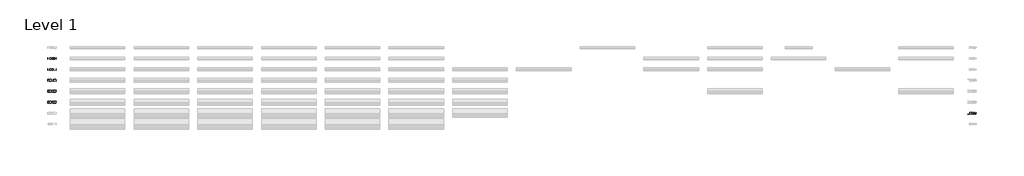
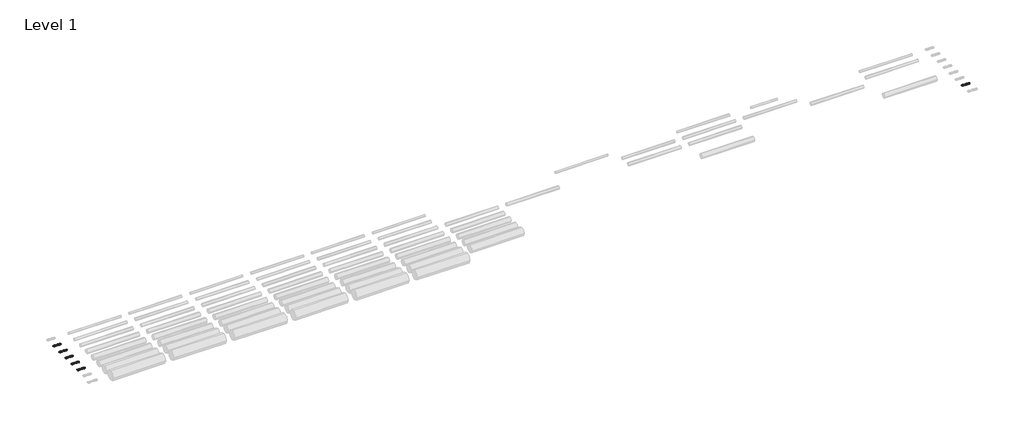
# One storey, part 3 of 10: 6 proxies.
"""IFC4 building model written with IfcOpenShell, lengths in millimetres."""

from ifc_helpers import new_model, si_unit, origin, origin_with_axes, place, context, project, spatial, polyline, outline, extrude, element, save

model = new_model("IFC4")

# Units and contexts
model_context = context("Model", 3, world=origin())
ifc_project = project(units=[si_unit("LENGTHUNIT", "METRE", prefix="MILLI")], contexts=[model_context])

# Site, building, storey
site = spatial("IfcSite", under=ifc_project)
building = spatial("IfcBuilding", under=site)
storey = spatial("IfcBuildingStorey", under=building, Name="Level 1", Elevation=0.0)

# Proxies
placement = place(None, origin())
element("IfcBuildingElementProxy", 1, Name="200mm Arial", ObjectType="200mm Arial", at=placement, inside=storey, context=model_context, shape_type="SweptSolid", body=[
    extrude(outline(polyline([(-19491.3116028, -713.949573), (-19491.3116028, -513.0369527), (-19422.0026349, -513.0369527), (-19386.1464031, -515.9309577), (-19370.1312736, -521.5105013), (-19356.6177416, -530.302881), (-19342.724065, -545.606772), (-19332.8280393, -564.6385338), (-19326.9051392, -587.0302846), (-19324.9308391, -612.4141423), (-19330.2773908, -652.9547382), (-19344.0116519, -682.2136195), (-19362.3567008, -700.436041), (-19386.3671323, -710.5160077), (-19418.6671715, -713.949573), (-19491.3116028, -713.949573)]), holes=[polyline([(-19466.1975253, -688.8354954), (-19421.7573803, -688.8354954), (-19389.4328156, -685.2057264), (-19370.7934612, -674.9540815), (-19362.0685265, -664.0831685), (-19355.5140957, -650.0116822), (-19351.4122114, -632.6783089), (-19350.0449167, -612.0217348), (-19352.7243239, -584.6513144), (-19360.7625455, -564.4423301), (-19372.6390025, -550.5609162), (-19386.8331162, -542.1732067), (-19422.4440933, -538.1510302), (-19466.1975253, -538.1510302), (-19466.1975253, -688.8354954)])]), origin_with_axes(), (0.0, 0.0, 1.0), 50.0),
    extrude(outline(polyline([(-19290.3989825, -713.949573), (-19290.3989825, -513.0369527), (-19263.5190714, -513.0369527), (-19158.5500754, -672.2072292), (-19158.5500754, -513.0369527), (-19133.4359979, -513.0369527), (-19133.4359979, -713.949573), (-19160.315909, -713.949573), (-19265.284905, -554.7302454), (-19265.284905, -713.949573), (-19290.3989825, -713.949573)])), origin_with_axes(), (0.0, 0.0, 1.0), 50.0),
    extrude(outline(polyline([(-18891.7130016, -688.8354954), (-18891.7130016, -713.949573), (-19023.5619087, -713.949573), (-19020.8641074, -696.6345937), (-19005.6092673, -669.9754118), (-18974.1676195, -640.8636832), (-18930.806595, -599.0232377), (-18922.6764029, -584.6022634), (-18919.9663388, -570.5736967), (-18922.5231187, -557.9982638), (-18930.1934583, -547.5442838), (-18941.9840762, -540.4993436), (-18956.9016912, -538.1510302), (-18972.5673328, -540.4441613), (-18984.7380955, -547.3235546), (-18992.5923761, -558.2496499), (-18995.3085714, -572.6828868), (-19020.422649, -569.5436271), (-19014.334202, -545.2511527), (-19001.1701579, -527.5069778), (-18981.6172299, -516.6544589), (-18956.3621309, -513.0369527), (-18930.9230909, -517.0591291), (-18911.4069511, -529.1256586), (-18898.9909337, -547.1518763), (-18894.8522613, -569.0531178), (-18899.3158962, -592.8673456), (-18914.1538033, -617.4909138), (-18950.1326624, -651.9001431), (-18979.0236618, -676.0577275), (-18990.3544272, -688.8354954), (-18891.7130016, -688.8354954)])), origin_with_axes(), (0.0, 0.0, 1.0), 50.0),
    extrude(outline(polyline([(-18866.5989241, -660.5821582), (-18841.4848465, -657.4428985), (-18836.8740589, -672.5199289), (-18828.8297059, -683.3172655), (-18817.3885758, -689.8103827), (-18802.5874569, -691.9747551), (-18784.5857646, -688.9642541), (-18771.0967581, -679.9327511), (-18762.6722604, -665.9225785), (-18759.8640945, -647.9760685), (-18762.4944508, -631.0780222), (-18770.3855196, -618.1531014), (-18783.5986146, -609.9493329), (-18802.1950494, -607.2147434), (-18824.2434437, -611.5802764), (-18838.3455868, -622.9110419), (-18863.4596644, -619.7717822), (-18841.4848465, -516.1762123), (-18744.1677961, -516.1762123), (-18744.1677961, -541.2902899), (-18821.1777604, -541.2902899), (-18831.9199147, -596.619742), (-18813.979536, -585.7304349), (-18795.1807661, -582.1006659), (-18771.7160261, -586.601089), (-18752.2366745, -600.1023582), (-18739.1216814, -620.6792244), (-18734.750017, -646.4064386), (-18738.6863543, -671.5205162), (-18750.4953664, -693.0048247), (-18760.9309523, -703.5415782), (-18773.1078464, -711.0678307), (-18787.0260485, -715.5835821), (-18802.6855588, -717.0888326), (-18827.3520466, -713.2199403), (-18847.0030765, -701.6132634), (-18860.4736888, -683.6177025), (-18866.5989241, -660.5821582)])), origin_with_axes(), (0.0, 0.0, 1.0), 50.0),
    extrude(outline(polyline([(-18712.7751992, -615.1119436), (-18710.9296578, -582.9529258), (-18705.3930338, -557.3054194), (-18696.2205094, -537.7770168), (-18683.4672669, -523.9753106), (-18667.0413358, -515.7715422), (-18646.8507456, -513.0369527), (-18631.3751764, -514.6556334), (-18617.5182879, -519.5116758), (-18605.930005, -527.4150073), (-18597.2602527, -538.1755557), (-18585.4880288, -567.9004209), (-18580.9262921, -615.1119436), (-18582.7534393, -647.0870203), (-18588.2348811, -672.6732131), (-18597.3522232, -692.2200098), (-18610.0870716, -706.0768983), (-18626.5497909, -714.335849), (-18646.8507456, -717.0888326), (-18672.9458418, -712.3063667), (-18692.7624186, -697.9589689), (-18701.5180101, -682.8298218), (-18707.772004, -663.9789353), (-18712.7751992, -615.1119436)]), holes=[polyline([(-18687.6611216, -615.0628927), (-18684.7180657, -654.5672876), (-18675.8888978, -677.4311536), (-18662.7432478, -688.3388547), (-18646.8507456, -691.9747551), (-18630.9582434, -688.326592), (-18617.8125935, -677.3821026), (-18608.9834256, -654.5059739), (-18606.0403696, -615.0628927), (-18608.8853237, -576.4475459), (-18617.420186, -553.4058703), (-18630.5413105, -541.9647402), (-18647.1450512, -538.1510302), (-18662.8658751, -541.5110191), (-18675.4964903, -551.5909857), (-18684.6199638, -576.0674012), (-18687.6611216, -615.0628927)])]), origin_with_axes(), (0.0, 0.0, 1.0), 50.0),
])
element("IfcBuildingElementProxy", 2, Name="200mm Arial", ObjectType="200mm Arial", at=placement, inside=storey, context=model_context, shape_type="SweptSolid", body=[
    extrude(outline(polyline([(-19491.3116028, -1913.949573), (-19491.3116028, -1713.0369527), (-19422.0026349, -1713.0369527), (-19386.1464031, -1715.9309577), (-19370.1312736, -1721.5105013), (-19356.6177416, -1730.302881), (-19342.724065, -1745.606772), (-19332.8280393, -1764.6385338), (-19326.9051392, -1787.0302846), (-19324.9308391, -1812.4141423), (-19330.2773908, -1852.9547382), (-19344.0116519, -1882.2136195), (-19362.3567008, -1900.436041), (-19386.3671323, -1910.5160077), (-19418.6671715, -1913.949573), (-19491.3116028, -1913.949573)]), holes=[polyline([(-19466.1975253, -1888.8354954), (-19421.7573803, -1888.8354954), (-19389.4328156, -1885.2057264), (-19370.7934612, -1874.9540815), (-19362.0685265, -1864.0831685), (-19355.5140957, -1850.0116822), (-19351.4122114, -1832.6783089), (-19350.0449167, -1812.0217348), (-19352.7243239, -1784.6513144), (-19360.7625455, -1764.4423301), (-19372.6390025, -1750.5609162), (-19386.8331162, -1742.1732067), (-19422.4440933, -1738.1510302), (-19466.1975253, -1738.1510302), (-19466.1975253, -1888.8354954)])]), origin_with_axes(), (0.0, 0.0, 1.0), 50.0),
    extrude(outline(polyline([(-19290.3989825, -1913.949573), (-19290.3989825, -1713.0369527), (-19263.5190714, -1713.0369527), (-19158.5500754, -1872.2072292), (-19158.5500754, -1713.0369527), (-19133.4359979, -1713.0369527), (-19133.4359979, -1913.949573), (-19160.315909, -1913.949573), (-19265.284905, -1754.7302454), (-19265.284905, -1913.949573), (-19290.3989825, -1913.949573)])), origin_with_axes(), (0.0, 0.0, 1.0), 50.0),
    extrude(outline(polyline([(-19020.422649, -1860.5821582), (-18995.3085714, -1857.4428985), (-18989.6861083, -1873.2250361), (-18981.451683, -1883.8813512), (-18970.2006253, -1889.9514041), (-18955.528265, -1891.9747551), (-18938.3113877, -1889.1911147), (-18925.0185849, -1880.8401934), (-18916.5205108, -1868.3812565), (-18913.6878195, -1853.2735692), (-18916.4959853, -1838.9323028), (-18924.920483, -1827.3011004), (-18937.6737255, -1819.5939726), (-18953.4681259, -1817.02493), (-18971.0774107, -1819.7717822), (-18968.2815075, -1794.6577047), (-18964.2593311, -1794.9520102), (-18949.2129575, -1793.1493885), (-18935.7607392, -1787.7415231), (-18926.2693837, -1778.5935242), (-18923.1055985, -1765.5705016), (-18925.3987296, -1754.7241141), (-18932.2781229, -1745.925603), (-18942.7750225, -1740.0946734), (-18955.9206725, -1738.1510302), (-18969.0908479, -1740.1130675), (-18979.8575277, -1745.9991794), (-18987.7179396, -1755.809366), (-18992.1693118, -1769.5436271), (-19017.2833893, -1766.4043674), (-19009.8889612, -1743.8532011), (-18996.7310485, -1727.0164685), (-18978.7293562, -1716.5318316), (-18956.8035893, -1713.0369527), (-18941.0153203, -1714.7598667), (-18926.5146384, -1719.9286087), (-18914.2886934, -1728.0833263), (-18905.3246354, -1738.7641669), (-18899.8247996, -1751.0698196), (-18897.991521, -1764.0989736), (-18899.7328291, -1776.2390794), (-18904.9567534, -1787.2510138), (-18913.5897176, -1796.6320047), (-18925.5581452, -1803.87928), (-18909.8373212, -1810.2313758), (-18898.1877247, -1821.0471064), (-18890.9772376, -1835.7378608), (-18888.5737419, -1853.7150276), (-18893.3807333, -1878.191443), (-18907.8017075, -1898.645682), (-18929.5680589, -1912.478045), (-18956.4111818, -1917.0888326), (-18980.6913935, -1913.1524953), (-19000.4589194, -1901.3434833), (-19014.2054433, -1883.2804773), (-19020.422649, -1860.5821582)])), origin_with_axes(), (0.0, 0.0, 1.0), 50.0),
    extrude(outline(polyline([(-18866.5989241, -1815.1119436), (-18864.7533827, -1782.9529258), (-18859.2167587, -1757.3054194), (-18850.0442343, -1737.7770168), (-18837.2909918, -1723.9753106), (-18820.8650607, -1715.7715422), (-18800.6744705, -1713.0369527), (-18785.1989013, -1714.6556334), (-18771.3420128, -1719.5116758), (-18759.7537299, -1727.4150073), (-18751.0839776, -1738.1755557), (-18739.3117537, -1767.9004209), (-18734.750017, -1815.1119436), (-18736.5771642, -1847.0870203), (-18742.058606, -1872.6732131), (-18751.1759481, -1892.2200098), (-18763.9107965, -1906.0768983), (-18780.3735158, -1914.335849), (-18800.6744705, -1917.0888326), (-18826.7695667, -1912.3063667), (-18846.5861435, -1897.9589689), (-18855.341735, -1882.8298218), (-18861.5957289, -1863.9789353), (-18866.5989241, -1815.1119436)]), holes=[polyline([(-18841.4848465, -1815.0628927), (-18838.5417906, -1854.5672876), (-18829.7126227, -1877.4311536), (-18816.5669727, -1888.3388547), (-18800.6744705, -1891.9747551), (-18784.7819683, -1888.326592), (-18771.6363184, -1877.3821026), (-18762.8071505, -1854.5059739), (-18759.8640945, -1815.0628927), (-18762.7090486, -1776.4475459), (-18771.2439109, -1753.4058703), (-18784.3650354, -1741.9647402), (-18800.9687761, -1738.1510302), (-18816.6896001, -1741.5110191), (-18829.3202152, -1751.5909857), (-18838.4436887, -1776.0674012), (-18841.4848465, -1815.0628927)])]), origin_with_axes(), (0.0, 0.0, 1.0), 50.0),
    extrude(outline(polyline([(-18712.7751992, -1815.1119436), (-18710.9296578, -1782.9529258), (-18705.3930338, -1757.3054194), (-18696.2205094, -1737.7770168), (-18683.4672669, -1723.9753106), (-18667.0413358, -1715.7715422), (-18646.8507456, -1713.0369527), (-18631.3751764, -1714.6556334), (-18617.5182879, -1719.5116758), (-18605.930005, -1727.4150073), (-18597.2602527, -1738.1755557), (-18585.4880288, -1767.9004209), (-18580.9262921, -1815.1119436), (-18582.7534393, -1847.0870203), (-18588.2348811, -1872.6732131), (-18597.3522232, -1892.2200098), (-18610.0870716, -1906.0768983), (-18626.5497909, -1914.335849), (-18646.8507456, -1917.0888326), (-18672.9458418, -1912.3063667), (-18692.7624186, -1897.9589689), (-18701.5180101, -1882.8298218), (-18707.772004, -1863.9789353), (-18712.7751992, -1815.1119436)]), holes=[polyline([(-18687.6611216, -1815.0628927), (-18684.7180657, -1854.5672876), (-18675.8888978, -1877.4311536), (-18662.7432478, -1888.3388547), (-18646.8507456, -1891.9747551), (-18630.9582434, -1888.326592), (-18617.8125935, -1877.3821026), (-18608.9834256, -1854.5059739), (-18606.0403696, -1815.0628927), (-18608.8853237, -1776.4475459), (-18617.420186, -1753.4058703), (-18630.5413105, -1741.9647402), (-18647.1450512, -1738.1510302), (-18662.8658751, -1741.5110191), (-18675.4964903, -1751.5909857), (-18684.6199638, -1776.0674012), (-18687.6611216, -1815.0628927)])]), origin_with_axes(), (0.0, 0.0, 1.0), 50.0),
])
element("IfcBuildingElementProxy", 3, Name="200mm Arial", ObjectType="200mm Arial", at=placement, inside=storey, context=model_context, shape_type="SweptSolid", body=[
    extrude(outline(polyline([(-19491.3116028, -3113.949573), (-19491.3116028, -2913.0369527), (-19422.0026349, -2913.0369527), (-19386.1464031, -2915.9309577), (-19370.1312736, -2921.5105013), (-19356.6177416, -2930.302881), (-19342.724065, -2945.606772), (-19332.8280393, -2964.6385338), (-19326.9051392, -2987.0302846), (-19324.9308391, -3012.4141423), (-19330.2773908, -3052.9547382), (-19344.0116519, -3082.2136195), (-19362.3567008, -3100.436041), (-19386.3671323, -3110.5160077), (-19418.6671715, -3113.949573), (-19491.3116028, -3113.949573)]), holes=[polyline([(-19466.1975253, -3088.8354954), (-19421.7573803, -3088.8354954), (-19389.4328156, -3085.2057264), (-19370.7934612, -3074.9540815), (-19362.0685265, -3064.0831685), (-19355.5140957, -3050.0116822), (-19351.4122114, -3032.6783089), (-19350.0449167, -3012.0217348), (-19352.7243239, -2984.6513144), (-19360.7625455, -2964.4423301), (-19372.6390025, -2950.5609162), (-19386.8331162, -2942.1732067), (-19422.4440933, -2938.1510302), (-19466.1975253, -2938.1510302), (-19466.1975253, -3088.8354954)])]), origin_with_axes(), (0.0, 0.0, 1.0), 50.0),
    extrude(outline(polyline([(-19290.3989825, -3113.949573), (-19290.3989825, -2913.0369527), (-19263.5190714, -2913.0369527), (-19158.5500754, -3072.2072292), (-19158.5500754, -2913.0369527), (-19133.4359979, -2913.0369527), (-19133.4359979, -3113.949573), (-19160.315909, -3113.949573), (-19265.284905, -2954.7302454), (-19265.284905, -3113.949573), (-19290.3989825, -3113.949573)])), origin_with_axes(), (0.0, 0.0, 1.0), 50.0),
    extrude(outline(polyline([(-18938.801897, -3113.949573), (-18938.801897, -3066.8606776), (-19029.8404281, -3066.8606776), (-19029.8404281, -3041.7466), (-18932.5233776, -2916.1762123), (-18913.6878195, -2916.1762123), (-18913.6878195, -3041.7466), (-18888.5737419, -3041.7466), (-18888.5737419, -3066.8606776), (-18913.6878195, -3066.8606776), (-18913.6878195, -3113.949573), (-18938.801897, -3113.949573)]), holes=[polyline([(-18938.801897, -3041.7466), (-18938.801897, -2964.1480245), (-18998.9383405, -3041.7466), (-18938.801897, -3041.7466)])]), origin_with_axes(), (0.0, 0.0, 1.0), 50.0),
    extrude(outline(polyline([(-18866.5989241, -3015.1119436), (-18864.7533827, -2982.9529258), (-18859.2167587, -2957.3054194), (-18850.0442343, -2937.7770168), (-18837.2909918, -2923.9753106), (-18820.8650607, -2915.7715422), (-18800.6744705, -2913.0369527), (-18785.1989013, -2914.6556334), (-18771.3420128, -2919.5116758), (-18759.7537299, -2927.4150073), (-18751.0839776, -2938.1755557), (-18739.3117537, -2967.9004209), (-18734.750017, -3015.1119436), (-18736.5771642, -3047.0870203), (-18742.058606, -3072.6732131), (-18751.1759481, -3092.2200098), (-18763.9107965, -3106.0768983), (-18780.3735158, -3114.335849), (-18800.6744705, -3117.0888326), (-18826.7695667, -3112.3063667), (-18846.5861435, -3097.9589689), (-18855.341735, -3082.8298218), (-18861.5957289, -3063.9789353), (-18866.5989241, -3015.1119436)]), holes=[polyline([(-18841.4848465, -3015.0628927), (-18838.5417906, -3054.5672876), (-18829.7126227, -3077.4311536), (-18816.5669727, -3088.3388547), (-18800.6744705, -3091.9747551), (-18784.7819683, -3088.326592), (-18771.6363184, -3077.3821026), (-18762.8071505, -3054.5059739), (-18759.8640945, -3015.0628927), (-18762.7090486, -2976.4475459), (-18771.2439109, -2953.4058703), (-18784.3650354, -2941.9647402), (-18800.9687761, -2938.1510302), (-18816.6896001, -2941.5110191), (-18829.3202152, -2951.5909857), (-18838.4436887, -2976.0674012), (-18841.4848465, -3015.0628927)])]), origin_with_axes(), (0.0, 0.0, 1.0), 50.0),
    extrude(outline(polyline([(-18712.7751992, -3015.1119436), (-18710.9296578, -2982.9529258), (-18705.3930338, -2957.3054194), (-18696.2205094, -2937.7770168), (-18683.4672669, -2923.9753106), (-18667.0413358, -2915.7715422), (-18646.8507456, -2913.0369527), (-18631.3751764, -2914.6556334), (-18617.5182879, -2919.5116758), (-18605.930005, -2927.4150073), (-18597.2602527, -2938.1755557), (-18585.4880288, -2967.9004209), (-18580.9262921, -3015.1119436), (-18582.7534393, -3047.0870203), (-18588.2348811, -3072.6732131), (-18597.3522232, -3092.2200098), (-18610.0870716, -3106.0768983), (-18626.5497909, -3114.335849), (-18646.8507456, -3117.0888326), (-18672.9458418, -3112.3063667), (-18692.7624186, -3097.9589689), (-18701.5180101, -3082.8298218), (-18707.772004, -3063.9789353), (-18712.7751992, -3015.1119436)]), holes=[polyline([(-18687.6611216, -3015.0628927), (-18684.7180657, -3054.5672876), (-18675.8888978, -3077.4311536), (-18662.7432478, -3088.3388547), (-18646.8507456, -3091.9747551), (-18630.9582434, -3088.326592), (-18617.8125935, -3077.3821026), (-18608.9834256, -3054.5059739), (-18606.0403696, -3015.0628927), (-18608.8853237, -2976.4475459), (-18617.420186, -2953.4058703), (-18630.5413105, -2941.9647402), (-18647.1450512, -2938.1510302), (-18662.8658751, -2941.5110191), (-18675.4964903, -2951.5909857), (-18684.6199638, -2976.0674012), (-18687.6611216, -3015.0628927)])]), origin_with_axes(), (0.0, 0.0, 1.0), 50.0),
])
element("IfcBuildingElementProxy", 4, Name="200mm Arial", ObjectType="200mm Arial", at=placement, inside=storey, context=model_context, shape_type="SweptSolid", body=[
    extrude(outline(polyline([(-19491.3116028, -4313.949573), (-19491.3116028, -4113.0369527), (-19422.0026349, -4113.0369527), (-19386.1464031, -4115.9309577), (-19370.1312736, -4121.5105013), (-19356.6177416, -4130.302881), (-19342.724065, -4145.606772), (-19332.8280393, -4164.6385338), (-19326.9051392, -4187.0302846), (-19324.9308391, -4212.4141423), (-19330.2773908, -4252.9547382), (-19344.0116519, -4282.2136195), (-19362.3567008, -4300.436041), (-19386.3671323, -4310.5160077), (-19418.6671715, -4313.949573), (-19491.3116028, -4313.949573)]), holes=[polyline([(-19466.1975253, -4288.8354954), (-19421.7573803, -4288.8354954), (-19389.4328156, -4285.2057264), (-19370.7934612, -4274.9540815), (-19362.0685265, -4264.0831685), (-19355.5140957, -4250.0116822), (-19351.4122114, -4232.6783089), (-19350.0449167, -4212.0217348), (-19352.7243239, -4184.6513144), (-19360.7625455, -4164.4423301), (-19372.6390025, -4150.5609162), (-19386.8331162, -4142.1732067), (-19422.4440933, -4138.1510302), (-19466.1975253, -4138.1510302), (-19466.1975253, -4288.8354954)])]), origin_with_axes(), (0.0, 0.0, 1.0), 50.0),
    extrude(outline(polyline([(-19290.3989825, -4313.949573), (-19290.3989825, -4113.0369527), (-19263.5190714, -4113.0369527), (-19158.5500754, -4272.2072292), (-19158.5500754, -4113.0369527), (-19133.4359979, -4113.0369527), (-19133.4359979, -4313.949573), (-19160.315909, -4313.949573), (-19265.284905, -4154.7302454), (-19265.284905, -4313.949573), (-19290.3989825, -4313.949573)])), origin_with_axes(), (0.0, 0.0, 1.0), 50.0),
    extrude(outline(polyline([(-19020.422649, -4260.5821582), (-18995.3085714, -4257.4428985), (-18990.6977838, -4272.5199289), (-18982.6534308, -4283.3172655), (-18971.2123008, -4289.8103827), (-18956.4111818, -4291.9747551), (-18938.4094895, -4288.9642541), (-18924.920483, -4279.9327511), (-18916.4959853, -4265.9225785), (-18913.6878195, -4247.9760685), (-18916.3181757, -4231.0780222), (-18924.2092445, -4218.1531014), (-18937.4223395, -4209.9493329), (-18956.0187744, -4207.2147434), (-18978.0671686, -4211.5802764), (-18992.1693118, -4222.9110419), (-19017.2833893, -4219.7717822), (-18995.3085714, -4116.1762123), (-18897.991521, -4116.1762123), (-18897.991521, -4141.2902899), (-18975.0014853, -4141.2902899), (-18985.7436396, -4196.619742), (-18967.8032609, -4185.7304349), (-18949.004491, -4182.1006659), (-18925.5397511, -4186.601089), (-18906.0603994, -4200.1023582), (-18892.9454063, -4220.6792244), (-18888.5737419, -4246.4064386), (-18892.5100793, -4271.5205162), (-18904.3190913, -4293.0048247), (-18914.7546772, -4303.5415782), (-18926.9315713, -4311.0678307), (-18940.8497734, -4315.5835821), (-18956.5092837, -4317.0888326), (-18981.1757715, -4313.2199403), (-19000.8268014, -4301.6132634), (-19014.2974138, -4283.6177025), (-19020.422649, -4260.5821582)])), origin_with_axes(), (0.0, 0.0, 1.0), 50.0),
    extrude(outline(polyline([(-18866.5989241, -4215.1119436), (-18864.7533827, -4182.9529258), (-18859.2167587, -4157.3054194), (-18850.0442343, -4137.7770168), (-18837.2909918, -4123.9753106), (-18820.8650607, -4115.7715422), (-18800.6744705, -4113.0369527), (-18785.1989013, -4114.6556334), (-18771.3420128, -4119.5116758), (-18759.7537299, -4127.4150073), (-18751.0839776, -4138.1755557), (-18739.3117537, -4167.9004209), (-18734.750017, -4215.1119436), (-18736.5771642, -4247.0870203), (-18742.058606, -4272.6732131), (-18751.1759481, -4292.2200098), (-18763.9107965, -4306.0768983), (-18780.3735158, -4314.335849), (-18800.6744705, -4317.0888326), (-18826.7695667, -4312.3063667), (-18846.5861435, -4297.9589689), (-18855.341735, -4282.8298218), (-18861.5957289, -4263.9789353), (-18866.5989241, -4215.1119436)]), holes=[polyline([(-18841.4848465, -4215.0628927), (-18838.5417906, -4254.5672876), (-18829.7126227, -4277.4311536), (-18816.5669727, -4288.3388547), (-18800.6744705, -4291.9747551), (-18784.7819683, -4288.326592), (-18771.6363184, -4277.3821026), (-18762.8071505, -4254.5059739), (-18759.8640945, -4215.0628927), (-18762.7090486, -4176.4475459), (-18771.2439109, -4153.4058703), (-18784.3650354, -4141.9647402), (-18800.9687761, -4138.1510302), (-18816.6896001, -4141.5110191), (-18829.3202152, -4151.5909857), (-18838.4436887, -4176.0674012), (-18841.4848465, -4215.0628927)])]), origin_with_axes(), (0.0, 0.0, 1.0), 50.0),
    extrude(outline(polyline([(-18712.7751992, -4215.1119436), (-18710.9296578, -4182.9529258), (-18705.3930338, -4157.3054194), (-18696.2205094, -4137.7770168), (-18683.4672669, -4123.9753106), (-18667.0413358, -4115.7715422), (-18646.8507456, -4113.0369527), (-18631.3751764, -4114.6556334), (-18617.5182879, -4119.5116758), (-18605.930005, -4127.4150073), (-18597.2602527, -4138.1755557), (-18585.4880288, -4167.9004209), (-18580.9262921, -4215.1119436), (-18582.7534393, -4247.0870203), (-18588.2348811, -4272.6732131), (-18597.3522232, -4292.2200098), (-18610.0870716, -4306.0768983), (-18626.5497909, -4314.335849), (-18646.8507456, -4317.0888326), (-18672.9458418, -4312.3063667), (-18692.7624186, -4297.9589689), (-18701.5180101, -4282.8298218), (-18707.772004, -4263.9789353), (-18712.7751992, -4215.1119436)]), holes=[polyline([(-18687.6611216, -4215.0628927), (-18684.7180657, -4254.5672876), (-18675.8888978, -4277.4311536), (-18662.7432478, -4288.3388547), (-18646.8507456, -4291.9747551), (-18630.9582434, -4288.326592), (-18617.8125935, -4277.3821026), (-18608.9834256, -4254.5059739), (-18606.0403696, -4215.0628927), (-18608.8853237, -4176.4475459), (-18617.420186, -4153.4058703), (-18630.5413105, -4141.9647402), (-18647.1450512, -4138.1510302), (-18662.8658751, -4141.5110191), (-18675.4964903, -4151.5909857), (-18684.6199638, -4176.0674012), (-18687.6611216, -4215.0628927)])]), origin_with_axes(), (0.0, 0.0, 1.0), 50.0),
])
element("IfcBuildingElementProxy", 5, Name="200mm Arial", ObjectType="200mm Arial", at=placement, inside=storey, context=model_context, shape_type="SweptSolid", body=[
    extrude(outline(polyline([(-19491.3116028, -5513.949573), (-19491.3116028, -5313.0369527), (-19422.0026349, -5313.0369527), (-19386.1464031, -5315.9309577), (-19370.1312736, -5321.5105013), (-19356.6177416, -5330.302881), (-19342.724065, -5345.606772), (-19332.8280393, -5364.6385338), (-19326.9051392, -5387.0302846), (-19324.9308391, -5412.4141423), (-19330.2773908, -5452.9547382), (-19344.0116519, -5482.2136195), (-19362.3567008, -5500.436041), (-19386.3671323, -5510.5160077), (-19418.6671715, -5513.949573), (-19491.3116028, -5513.949573)]), holes=[polyline([(-19466.1975253, -5488.8354954), (-19421.7573803, -5488.8354954), (-19389.4328156, -5485.2057264), (-19370.7934612, -5474.9540815), (-19362.0685265, -5464.0831685), (-19355.5140957, -5450.0116822), (-19351.4122114, -5432.6783089), (-19350.0449167, -5412.0217348), (-19352.7243239, -5384.6513144), (-19360.7625455, -5364.4423301), (-19372.6390025, -5350.5609162), (-19386.8331162, -5342.1732067), (-19422.4440933, -5338.1510302), (-19466.1975253, -5338.1510302), (-19466.1975253, -5488.8354954)])]), origin_with_axes(), (0.0, 0.0, 1.0), 50.0),
    extrude(outline(polyline([(-19290.3989825, -5513.949573), (-19290.3989825, -5313.0369527), (-19263.5190714, -5313.0369527), (-19158.5500754, -5472.2072292), (-19158.5500754, -5313.0369527), (-19133.4359979, -5313.0369527), (-19133.4359979, -5513.949573), (-19160.315909, -5513.949573), (-19265.284905, -5354.7302454), (-19265.284905, -5513.949573), (-19290.3989825, -5513.949573)])), origin_with_axes(), (0.0, 0.0, 1.0), 50.0),
    extrude(outline(polyline([(-18891.7130016, -5366.4043674), (-18916.8270791, -5369.5436271), (-18926.3429601, -5348.5988789), (-18937.7350392, -5340.7629924), (-18951.5060886, -5338.1510302), (-18974.1676195, -5344.2333458), (-18983.6037926, -5353.8411973), (-18991.3109204, -5367.066555), (-18996.5164507, -5385.7733545), (-18998.4478311, -5411.8255311), (-18988.3739958, -5400.0717013), (-18976.301335, -5391.7882251), (-18962.904299, -5386.8770005), (-18948.8573382, -5385.2399256), (-18925.656247, -5389.7158232), (-18906.1830268, -5403.143516), (-18892.9760631, -5423.6590686), (-18888.5737419, -5449.3985455), (-18890.6461438, -5467.3818437), (-18896.8633495, -5484.0530295), (-18906.7103243, -5498.1919608), (-18919.6720332, -5508.5784958), (-18935.1598652, -5514.9612484), (-18952.5852091, -5517.0888326), (-18981.0776696, -5511.4479754), (-19003.7698573, -5494.5254036), (-19012.4288798, -5481.4165418), (-19018.6138958, -5464.6533856), (-19023.5619087, -5420.1641897), (-19018.0682042, -5370.144501), (-19011.2010736, -5351.0667539), (-19001.5870908, -5335.9437382), (-18991.1668333, -5325.9220195), (-18979.0849755, -5318.763649), (-18949.9364587, -5313.0369527), (-18927.9003272, -5316.5808825), (-18910.2542542, -5327.2126722), (-18897.8934191, -5344.0984558), (-18891.7130016, -5366.4043674)]), holes=[polyline([(-18998.4478311, -5449.0061381), (-18992.6352956, -5470.7602267), (-18977.1842518, -5486.554627), (-18954.5472464, -5491.9747551), (-18937.9741625, -5489.1665892), (-18924.9450085, -5480.7420915), (-18916.5021167, -5467.4983397), (-18913.6878195, -5450.2324114), (-18916.4653285, -5433.6593275), (-18924.7978557, -5421.022581), (-18938.0477389, -5413.0211476), (-18955.577316, -5410.3540031), (-18972.1258744, -5413.0211476), (-18985.9643688, -5421.022581), (-18995.3269655, -5433.3527592), (-18998.4478311, -5449.0061381)])]), origin_with_axes(), (0.0, 0.0, 1.0), 50.0),
    extrude(outline(polyline([(-18866.5989241, -5415.1119436), (-18864.7533827, -5382.9529258), (-18859.2167587, -5357.3054194), (-18850.0442343, -5337.7770168), (-18837.2909918, -5323.9753106), (-18820.8650607, -5315.7715422), (-18800.6744705, -5313.0369527), (-18785.1989013, -5314.6556334), (-18771.3420128, -5319.5116758), (-18759.7537299, -5327.4150073), (-18751.0839776, -5338.1755557), (-18739.3117537, -5367.9004209), (-18734.750017, -5415.1119436), (-18736.5771642, -5447.0870203), (-18742.058606, -5472.6732131), (-18751.1759481, -5492.2200098), (-18763.9107965, -5506.0768983), (-18780.3735158, -5514.335849), (-18800.6744705, -5517.0888326), (-18826.7695667, -5512.3063667), (-18846.5861435, -5497.9589689), (-18855.341735, -5482.8298218), (-18861.5957289, -5463.9789353), (-18866.5989241, -5415.1119436)]), holes=[polyline([(-18841.4848465, -5415.0628927), (-18838.5417906, -5454.5672876), (-18829.7126227, -5477.4311536), (-18816.5669727, -5488.3388547), (-18800.6744705, -5491.9747551), (-18784.7819683, -5488.326592), (-18771.6363184, -5477.3821026), (-18762.8071505, -5454.5059739), (-18759.8640945, -5415.0628927), (-18762.7090486, -5376.4475459), (-18771.2439109, -5353.4058703), (-18784.3650354, -5341.9647402), (-18800.9687761, -5338.1510302), (-18816.6896001, -5341.5110191), (-18829.3202152, -5351.5909857), (-18838.4436887, -5376.0674012), (-18841.4848465, -5415.0628927)])]), origin_with_axes(), (0.0, 0.0, 1.0), 50.0),
    extrude(outline(polyline([(-18712.7751992, -5415.1119436), (-18710.9296578, -5382.9529258), (-18705.3930338, -5357.3054194), (-18696.2205094, -5337.7770168), (-18683.4672669, -5323.9753106), (-18667.0413358, -5315.7715422), (-18646.8507456, -5313.0369527), (-18631.3751764, -5314.6556334), (-18617.5182879, -5319.5116758), (-18605.930005, -5327.4150073), (-18597.2602527, -5338.1755557), (-18585.4880288, -5367.9004209), (-18580.9262921, -5415.1119436), (-18582.7534393, -5447.0870203), (-18588.2348811, -5472.6732131), (-18597.3522232, -5492.2200098), (-18610.0870716, -5506.0768983), (-18626.5497909, -5514.335849), (-18646.8507456, -5517.0888326), (-18672.9458418, -5512.3063667), (-18692.7624186, -5497.9589689), (-18701.5180101, -5482.8298218), (-18707.772004, -5463.9789353), (-18712.7751992, -5415.1119436)]), holes=[polyline([(-18687.6611216, -5415.0628927), (-18684.7180657, -5454.5672876), (-18675.8888978, -5477.4311536), (-18662.7432478, -5488.3388547), (-18646.8507456, -5491.9747551), (-18630.9582434, -5488.326592), (-18617.8125935, -5477.3821026), (-18608.9834256, -5454.5059739), (-18606.0403696, -5415.0628927), (-18608.8853237, -5376.4475459), (-18617.420186, -5353.4058703), (-18630.5413105, -5341.9647402), (-18647.1450512, -5338.1510302), (-18662.8658751, -5341.5110191), (-18675.4964903, -5351.5909857), (-18684.6199638, -5376.0674012), (-18687.6611216, -5415.0628927)])]), origin_with_axes(), (0.0, 0.0, 1.0), 50.0),
])
element("IfcBuildingElementProxy", 6, Name="200mm Arial", ObjectType="200mm Arial", at=placement, inside=storey, context=model_context, shape_type="SweptSolid", body=[
    extrude(outline(polyline([(81539.3076926, -6713.949573), (81539.3076926, -6513.0369527), (81608.6166605, -6513.0369527), (81644.4728923, -6515.9309577), (81660.4880218, -6521.5105013), (81674.0015538, -6530.302881), (81687.8952305, -6545.606772), (81697.7912562, -6564.6385338), (81703.7141563, -6587.0302846), (81705.6884563, -6612.4141423), (81700.3419047, -6652.9547382), (81686.6076435, -6682.2136195), (81668.2625947, -6700.436041), (81644.2521631, -6710.5160077), (81611.9521239, -6713.949573), (81539.3076926, -6713.949573)]), holes=[polyline([(81564.4217702, -6688.8354954), (81608.8619152, -6688.8354954), (81641.1864798, -6685.2057264), (81659.8258342, -6674.9540815), (81668.5507689, -6664.0831685), (81675.1051998, -6650.0116822), (81679.207084, -6632.6783089), (81680.5743788, -6612.0217348), (81677.8949716, -6584.6513144), (81669.85675, -6564.4423301), (81657.9802929, -6550.5609162), (81643.7861793, -6542.1732067), (81608.1752021, -6538.1510302), (81564.4217702, -6538.1510302), (81564.4217702, -6688.8354954)])]), origin_with_axes(), (0.0, 0.0, 1.0), 50.0),
    extrude(outline(polyline([(81740.2203129, -6713.949573), (81740.2203129, -6513.0369527), (81767.100224, -6513.0369527), (81872.06922, -6672.2072292), (81872.06922, -6513.0369527), (81897.1832975, -6513.0369527), (81897.1832975, -6713.949573), (81870.3033864, -6713.949573), (81765.3343905, -6554.7302454), (81765.3343905, -6713.949573), (81740.2203129, -6713.949573)])), origin_with_axes(), (0.0, 0.0, 1.0), 50.0),
    extrude(outline(polyline([(82046.7886422, -6603.2906688), (82033.3425553, -6596.6687929), (82023.9063821, -6587.6924722), (82018.3329699, -6576.5456478), (82016.4751658, -6563.4122605), (82020.5218678, -6543.7796247), (82032.6619736, -6527.5560287), (82051.53432, -6516.6667217), (82075.7777435, -6513.0369527), (82100.1683197, -6516.7525608), (82119.2859208, -6527.8993853), (82131.6467558, -6544.3804986), (82135.7670341, -6564.0989736), (82133.9337555, -6576.8092965), (82128.4339197, -6587.7660486), (82119.206213, -6596.687187), (82106.1893217, -6603.2906688), (82121.6464969, -6611.255314), (82132.8975546, -6622.9846183), (82139.7585538, -6637.9144959), (82142.0455535, -6655.4808612), (82137.5083423, -6679.4912927), (82123.8967084, -6699.332395), (82102.8783838, -6712.6497232), (82076.1211, -6717.0888326), (82049.3638162, -6712.6313291), (82028.3454916, -6699.2588186), (82014.7338577, -6679.227644), (82010.1966465, -6654.7941481), (82012.5756167, -6636.5472012), (82019.7125274, -6621.5376158), (82031.2394966, -6610.2804267), (82046.7886422, -6603.2906688)]), holes=[polyline([(82035.310724, -6653.9112313), (82039.5045787, -6672.8203659), (82045.3109829, -6680.9321639), (82054.3424859, -6686.97156), (82076.3173037, -6691.9747551), (82093.4115538, -6689.3443988), (82106.2383727, -6681.45333), (82114.2582002, -6669.5032966), (82116.931476, -6654.6960463), (82114.172361, -6639.6374099), (82105.8950161, -6627.4237277), (82092.7738916, -6619.3303238), (82075.4834379, -6616.6325225), (82058.6283111, -6619.2935356), (82045.9302509, -6627.2765749), (82037.9656057, -6639.2572652), (82035.310724, -6653.9112313)]), polyline([(82041.5892434, -6564.1480245), (82043.8149294, -6575.110908), (82050.4919877, -6583.8664995), (82061.4242143, -6589.6054586), (82076.4154056, -6591.518445), (82091.057109, -6589.6177213), (82101.8237887, -6583.9155504), (82108.4456646, -6575.4542645), (82110.6529566, -6565.276196), (82108.3720882, -6554.7118513), (82101.5294831, -6545.974654), (82090.6156506, -6540.1069361), (82076.1211, -6538.1510302), (82061.5345789, -6540.0640166), (82050.6391405, -6545.8029757), (82043.8517176, -6554.2152106), (82041.5892434, -6564.1480245)])]), origin_with_axes(), (0.0, 0.0, 1.0), 50.0),
    extrude(outline(polyline([(82164.0203714, -6615.1119436), (82165.8659127, -6582.9529258), (82171.4025367, -6557.3054194), (82180.5750612, -6537.7770168), (82193.3283037, -6523.9753106), (82209.7542347, -6515.7715422), (82229.9448249, -6513.0369527), (82245.4203942, -6514.6556334), (82259.2772827, -6519.5116758), (82270.8655655, -6527.4150073), (82279.5353179, -6538.1755557), (82291.3075417, -6567.9004209), (82295.8692784, -6615.1119436), (82294.0421312, -6647.0870203), (82288.5606895, -6672.6732131), (82279.4433474, -6692.2200098), (82266.708499, -6706.0768983), (82250.2457797, -6714.335849), (82229.9448249, -6717.0888326), (82203.8497287, -6712.3063667), (82184.0331519, -6697.9589689), (82175.2775604, -6682.8298218), (82169.0235665, -6663.9789353), (82164.0203714, -6615.1119436)]), holes=[polyline([(82189.1344489, -6615.0628927), (82192.0775049, -6654.5672876), (82200.9066728, -6677.4311536), (82214.0523227, -6688.3388547), (82229.9448249, -6691.9747551), (82245.8373271, -6688.326592), (82258.9829771, -6677.3821026), (82267.8121449, -6654.5059739), (82270.7552009, -6615.0628927), (82267.9102468, -6576.4475459), (82259.3753845, -6553.4058703), (82246.25426, -6541.9647402), (82229.6505193, -6538.1510302), (82213.9296954, -6541.5110191), (82201.2990802, -6551.5909857), (82192.1756067, -6576.0674012), (82189.1344489, -6615.0628927)])]), origin_with_axes(), (0.0, 0.0, 1.0), 50.0),
    extrude(outline(polyline([(82317.8440963, -6615.1119436), (82319.6896376, -6582.9529258), (82325.2262617, -6557.3054194), (82334.3987861, -6537.7770168), (82347.1520286, -6523.9753106), (82363.5779597, -6515.7715422), (82383.7685498, -6513.0369527), (82399.2441191, -6514.6556334), (82413.1010076, -6519.5116758), (82424.6892904, -6527.4150073), (82433.3590428, -6538.1755557), (82445.1312666, -6567.9004209), (82449.6930034, -6615.1119436), (82447.8658561, -6647.0870203), (82442.3844144, -6672.6732131), (82433.2670723, -6692.2200098), (82420.5322239, -6706.0768983), (82404.0695046, -6714.335849), (82383.7685498, -6717.0888326), (82357.6734536, -6712.3063667), (82337.8568768, -6697.9589689), (82329.1012853, -6682.8298218), (82322.8472914, -6663.9789353), (82317.8440963, -6615.1119436)]), holes=[polyline([(82342.9581738, -6615.0628927), (82345.9012298, -6654.5672876), (82354.7303977, -6677.4311536), (82367.8760476, -6688.3388547), (82383.7685498, -6691.9747551), (82399.661052, -6688.326592), (82412.806702, -6677.3821026), (82421.6358699, -6654.5059739), (82424.5789258, -6615.0628927), (82421.7339717, -6576.4475459), (82413.1991094, -6553.4058703), (82400.0779849, -6541.9647402), (82383.4742442, -6538.1510302), (82367.7534203, -6541.5110191), (82355.1228051, -6551.5909857), (82345.9993317, -6576.0674012), (82342.9581738, -6615.0628927)])]), origin_with_axes(), (0.0, 0.0, 1.0), 50.0),
])

save(model, "model.ifc")
